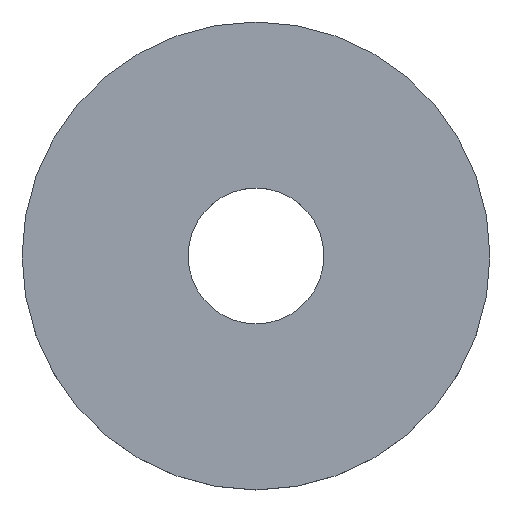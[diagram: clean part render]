
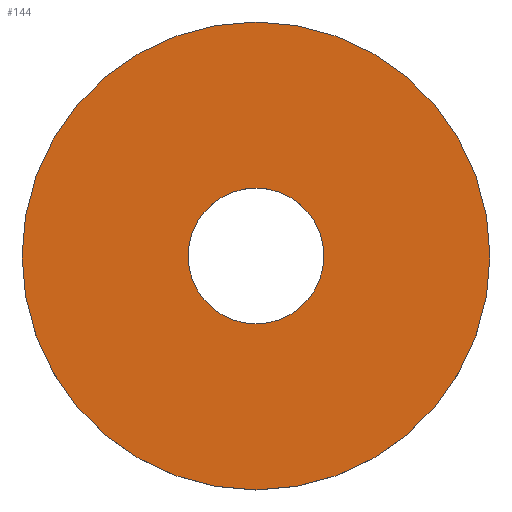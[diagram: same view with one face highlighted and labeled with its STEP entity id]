
A CAD part, top view. The second image highlights one B-rep face of the part: STEP entity #144.
In plain terms, the highlighted planar face has unit normal (0, 0, 1).
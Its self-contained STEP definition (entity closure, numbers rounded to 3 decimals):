
#31 = CYLINDRICAL_SURFACE('',#32,3.1);
#32 = AXIS2_PLACEMENT_3D('',#33,#34,#35);
#33 = CARTESIAN_POINT('',(0.,-23.,8.75));
#34 = DIRECTION('',(-0.,-0.,-1.));
#35 = DIRECTION('',(1.,0.,0.));
#56 = VERTEX_POINT('',#57);
#57 = CARTESIAN_POINT('',(3.1,-23.,9.35));
#78 = EDGE_CURVE('',#56,#56,#79,.T.);
#79 = SURFACE_CURVE('',#80,(#85,#92),.PCURVE_S1.);
#80 = CIRCLE('',#81,3.1);
#81 = AXIS2_PLACEMENT_3D('',#82,#83,#84);
#82 = CARTESIAN_POINT('',(0.,-23.,9.35));
#83 = DIRECTION('',(0.,0.,1.));
#84 = DIRECTION('',(1.,0.,-0.));
#85 = PCURVE('',#31,#86);
#86 = DEFINITIONAL_REPRESENTATION('',(#87),#91);
#87 = LINE('',#88,#89);
#88 = CARTESIAN_POINT('',(6.283,-0.6));
#89 = VECTOR('',#90,1.);
#90 = DIRECTION('',(-1.,0.));
#91 = ( GEOMETRIC_REPRESENTATION_CONTEXT(2) 
PARAMETRIC_REPRESENTATION_CONTEXT() REPRESENTATION_CONTEXT('2D SPACE',''
  ) );
#92 = PCURVE('',#93,#98);
#93 = PLANE('',#94);
#94 = AXIS2_PLACEMENT_3D('',#95,#96,#97);
#95 = CARTESIAN_POINT('',(0.,-23.,9.35));
#96 = DIRECTION('',(0.,0.,1.));
#97 = DIRECTION('',(1.,0.,-0.));
#98 = DEFINITIONAL_REPRESENTATION('',(#99),#103);
#99 = CIRCLE('',#100,3.1);
#100 = AXIS2_PLACEMENT_2D('',#101,#102);
#101 = CARTESIAN_POINT('',(0.,0.));
#102 = DIRECTION('',(1.,0.));
#103 = ( GEOMETRIC_REPRESENTATION_CONTEXT(2) 
PARAMETRIC_REPRESENTATION_CONTEXT() REPRESENTATION_CONTEXT('2D SPACE',''
  ) );
#133 = CYLINDRICAL_SURFACE('',#134,0.9);
#134 = AXIS2_PLACEMENT_3D('',#135,#136,#137);
#135 = CARTESIAN_POINT('',(0.,-23.,8.55));
#136 = DIRECTION('',(-0.,-0.,-1.));
#137 = DIRECTION('',(1.,0.,0.));
#144 = ADVANCED_FACE('',(#145,#148),#93,.T.);
#145 = FACE_BOUND('',#146,.T.);
#146 = EDGE_LOOP('',(#147));
#147 = ORIENTED_EDGE('',*,*,#78,.T.);
#148 = FACE_BOUND('',#149,.T.);
#149 = EDGE_LOOP('',(#150));
#150 = ORIENTED_EDGE('',*,*,#151,.T.);
#151 = EDGE_CURVE('',#152,#152,#154,.T.);
#152 = VERTEX_POINT('',#153);
#153 = CARTESIAN_POINT('',(0.9,-23.,9.35));
#154 = SURFACE_CURVE('',#155,(#160,#171),.PCURVE_S1.);
#155 = CIRCLE('',#156,0.9);
#156 = AXIS2_PLACEMENT_3D('',#157,#158,#159);
#157 = CARTESIAN_POINT('',(0.,-23.,9.35));
#158 = DIRECTION('',(0.,0.,-1.));
#159 = DIRECTION('',(1.,0.,0.));
#160 = PCURVE('',#93,#161);
#161 = DEFINITIONAL_REPRESENTATION('',(#162),#170);
#162 = ( BOUNDED_CURVE() B_SPLINE_CURVE(2,(#163,#164,#165,#166,#167,#168
,#169),.UNSPECIFIED.,.T.,.F.) B_SPLINE_CURVE_WITH_KNOTS((1,2,2,2,2,1),(
    -2.094,0.,2.094,4.189,6.283,
8.378),.UNSPECIFIED.) CURVE() GEOMETRIC_REPRESENTATION_ITEM() 
RATIONAL_B_SPLINE_CURVE((1.,0.5,1.,0.5,1.,0.5,1.)) REPRESENTATION_ITEM(
  '') );
#163 = CARTESIAN_POINT('',(0.9,0.));
#164 = CARTESIAN_POINT('',(0.9,-1.559));
#165 = CARTESIAN_POINT('',(-0.45,-0.779));
#166 = CARTESIAN_POINT('',(-1.8,0.));
#167 = CARTESIAN_POINT('',(-0.45,0.779));
#168 = CARTESIAN_POINT('',(0.9,1.559));
#169 = CARTESIAN_POINT('',(0.9,0.));
#170 = ( GEOMETRIC_REPRESENTATION_CONTEXT(2) 
PARAMETRIC_REPRESENTATION_CONTEXT() REPRESENTATION_CONTEXT('2D SPACE',''
  ) );
#171 = PCURVE('',#133,#172);
#172 = DEFINITIONAL_REPRESENTATION('',(#173),#177);
#173 = LINE('',#174,#175);
#174 = CARTESIAN_POINT('',(0.,-0.8));
#175 = VECTOR('',#176,1.);
#176 = DIRECTION('',(1.,-0.));
#177 = ( GEOMETRIC_REPRESENTATION_CONTEXT(2) 
PARAMETRIC_REPRESENTATION_CONTEXT() REPRESENTATION_CONTEXT('2D SPACE',''
  ) );
